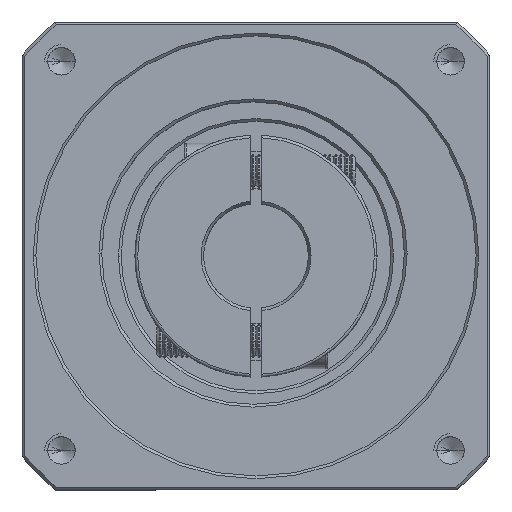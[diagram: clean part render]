
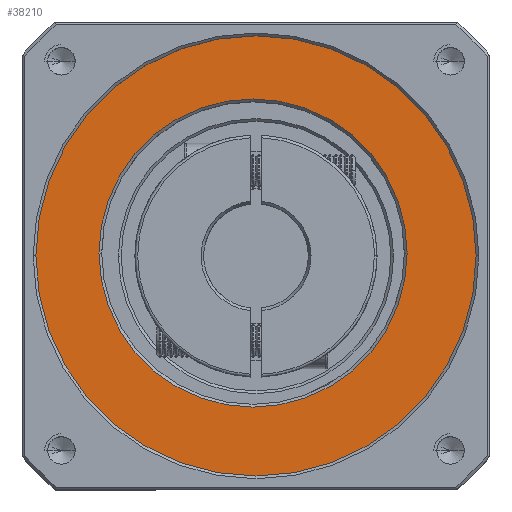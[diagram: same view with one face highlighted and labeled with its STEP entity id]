
A CAD part, top view. The second image highlights one B-rep face of the part: STEP entity #38210.
In plain terms, the highlighted planar face has unit normal (0, 0, 1).
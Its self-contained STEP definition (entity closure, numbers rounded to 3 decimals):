
#2 = CIRCLE ( 'NONE', #25401, 28. ) ;
#3931 = AXIS2_PLACEMENT_3D ( 'NONE', #114963, #83569, #95008 ) ;
#5706 = EDGE_CURVE ( 'NONE', #28152, #39448, #42934, .T. ) ;
#6910 = CARTESIAN_POINT ( 'NONE',  ( -105.202, 32.793, 31.653 ) ) ;
#10210 = DIRECTION ( 'NONE',  ( 1., 0., 0. ) ) ;
#11026 = DIRECTION ( 'NONE',  ( 1., 0., 0. ) ) ;
#11473 = CARTESIAN_POINT ( 'NONE',  ( -76.66, 32.259, 31.653 ) ) ;
#13478 = FACE_BOUND ( 'NONE', #83072, .T. ) ;
#23687 = CARTESIAN_POINT ( 'NONE',  ( -49.202, 32.793, 31.653 ) ) ;
#25401 = AXIS2_PLACEMENT_3D ( 'NONE', #118431, #37580, #67196 ) ;
#26111 = FACE_OUTER_BOUND ( 'NONE', #41854, .T. ) ;
#28152 = VERTEX_POINT ( 'NONE', #23687 ) ;
#29709 = DIRECTION ( 'NONE',  ( 0., 0., 1. ) ) ;
#29874 = CIRCLE ( 'NONE', #76625, 40. ) ;
#37580 = DIRECTION ( 'NONE',  ( 0., 0., -1. ) ) ;
#38210 = ADVANCED_FACE ( 'NONE', ( #26111, #13478 ), #93301, .T. ) ;
#39248 = AXIS2_PLACEMENT_3D ( 'NONE', #11473, #72416, #11026 ) ;
#39448 = VERTEX_POINT ( 'NONE', #6910 ) ;
#41854 = EDGE_LOOP ( 'NONE', ( #111319, #64776 ) ) ;
#42934 = CIRCLE ( 'NONE', #79482, 28. ) ;
#55894 = CARTESIAN_POINT ( 'NONE',  ( -116.66, 32.259, 31.653 ) ) ;
#58805 = CARTESIAN_POINT ( 'NONE',  ( -76.66, 32.259, 31.653 ) ) ;
#60579 = DIRECTION ( 'NONE',  ( 0., 0., -1. ) ) ;
#61461 = CARTESIAN_POINT ( 'NONE',  ( -77.202, 32.793, 31.653 ) ) ;
#64776 = ORIENTED_EDGE ( 'NONE', *, *, #86848, .T. ) ;
#67196 = DIRECTION ( 'NONE',  ( 1., 0., 0. ) ) ;
#72416 = DIRECTION ( 'NONE',  ( 0., 0., 1. ) ) ;
#73556 = EDGE_CURVE ( 'NONE', #39448, #28152, #2, .T. ) ;
#76625 = AXIS2_PLACEMENT_3D ( 'NONE', #58805, #29709, #99398 ) ;
#76864 = CARTESIAN_POINT ( 'NONE',  ( -36.66, 32.259, 31.653 ) ) ;
#79482 = AXIS2_PLACEMENT_3D ( 'NONE', #61461, #60579, #10210 ) ;
#80118 = VERTEX_POINT ( 'NONE', #76864 ) ;
#83072 = EDGE_LOOP ( 'NONE', ( #113606, #123467 ) ) ;
#83569 = DIRECTION ( 'NONE',  ( 0., 0., 1. ) ) ;
#86848 = EDGE_CURVE ( 'NONE', #100803, #80118, #29874, .T. ) ;
#87400 = CIRCLE ( 'NONE', #39248, 40. ) ;
#93301 = PLANE ( 'NONE',  #3931 ) ;
#95008 = DIRECTION ( 'NONE',  ( 1., 0., 0. ) ) ;
#99398 = DIRECTION ( 'NONE',  ( 1., 0., 0. ) ) ;
#100803 = VERTEX_POINT ( 'NONE', #55894 ) ;
#111319 = ORIENTED_EDGE ( 'NONE', *, *, #125715, .T. ) ;
#113606 = ORIENTED_EDGE ( 'NONE', *, *, #5706, .T. ) ;
#114963 = CARTESIAN_POINT ( 'NONE',  ( -76.66, 32.259, 31.653 ) ) ;
#118431 = CARTESIAN_POINT ( 'NONE',  ( -77.202, 32.793, 31.653 ) ) ;
#123467 = ORIENTED_EDGE ( 'NONE', *, *, #73556, .T. ) ;
#125715 = EDGE_CURVE ( 'NONE', #80118, #100803, #87400, .T. ) ;
